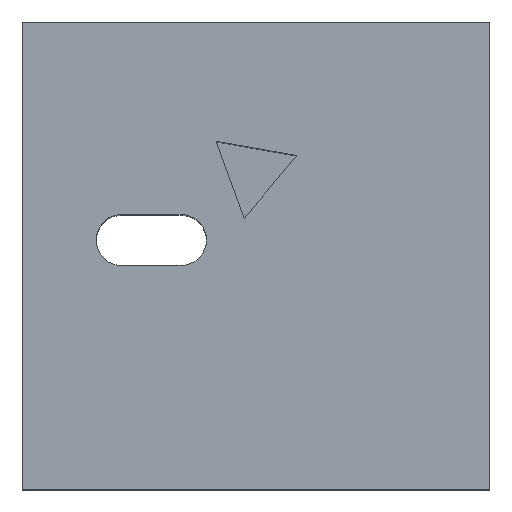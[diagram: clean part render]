
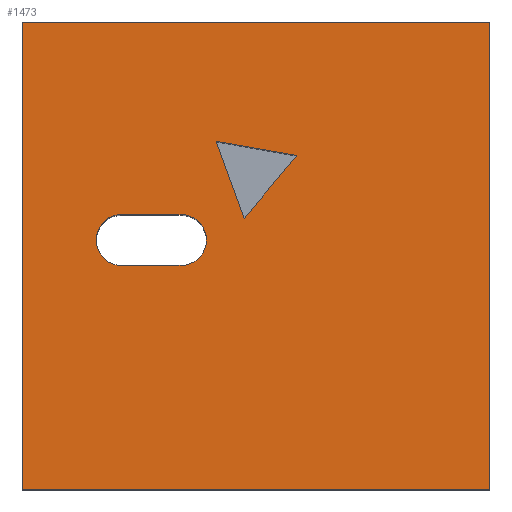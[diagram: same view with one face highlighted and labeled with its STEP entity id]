
A CAD part, top view. The second image highlights one B-rep face of the part: STEP entity #1473.
In plain terms, the highlighted planar face has unit normal (0, 0, 1).
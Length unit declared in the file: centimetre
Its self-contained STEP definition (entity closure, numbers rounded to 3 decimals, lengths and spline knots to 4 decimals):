
#16 = DIRECTION ( 'NONE',  ( -0.985, 0.173, 0. ) ) ;
#46 = VECTOR ( 'NONE', #833, 100. ) ;
#50 = AXIS2_PLACEMENT_3D ( 'NONE', #370, #1032, #805 ) ;
#60 = DIRECTION ( 'NONE',  ( 1., 0., 0. ) ) ;
#86 = CARTESIAN_POINT ( 'NONE',  ( 0., 1000., 1000. ) ) ;
#99 = CARTESIAN_POINT ( 'NONE',  ( 0., 0., 1000. ) ) ;
#104 = VECTOR ( 'NONE', #785, 100. ) ;
#124 = DIRECTION ( 'NONE',  ( 1., 0., 0. ) ) ;
#154 = DIRECTION ( 'NONE',  ( 0., 1., 0. ) ) ;
#172 = VECTOR ( 'NONE', #124, 100. ) ;
#174 = LINE ( 'NONE', #425, #853 ) ;
#213 = ORIENTED_EDGE ( 'NONE', *, *, #684, .T. ) ;
#222 = PLANE ( 'NONE',  #609 ) ;
#226 = CARTESIAN_POINT ( 'NONE',  ( 0., 1000., 1000. ) ) ;
#291 = EDGE_CURVE ( 'NONE', #687, #1373, #715, .T. ) ;
#309 = CARTESIAN_POINT ( 'NONE',  ( 0., 0., 1000. ) ) ;
#327 = EDGE_CURVE ( 'NONE', #333, #590, #1387, .T. ) ;
#333 = VERTEX_POINT ( 'NONE', #588 ) ;
#344 = LINE ( 'NONE', #226, #46 ) ;
#370 = CARTESIAN_POINT ( 'NONE',  ( 212.2095, 533.4804, 1000. ) ) ;
#376 = EDGE_CURVE ( 'NONE', #771, #1493, #947, .T. ) ;
#388 = CARTESIAN_POINT ( 'NONE',  ( 212.2095, 479.0422, 1000. ) ) ;
#400 = VECTOR ( 'NONE', #16, 100. ) ;
#407 = LINE ( 'NONE', #1433, #1119 ) ;
#412 = VERTEX_POINT ( 'NONE', #480 ) ;
#425 = CARTESIAN_POINT ( 'NONE',  ( 1000., 1000., 1000. ) ) ;
#426 = DIRECTION ( 'NONE',  ( 0., 0., -1. ) ) ;
#480 = CARTESIAN_POINT ( 'NONE',  ( 212.2095, 587.9185, 1000. ) ) ;
#484 = EDGE_CURVE ( 'NONE', #590, #1316, #505, .T. ) ;
#488 = ORIENTED_EDGE ( 'NONE', *, *, #1386, .T. ) ;
#505 = LINE ( 'NONE', #1195, #400 ) ;
#516 = CIRCLE ( 'NONE', #1486, 54.4382 ) ;
#532 = ORIENTED_EDGE ( 'NONE', *, *, #616, .F. ) ;
#545 = FACE_BOUND ( 'NONE', #1224, .T. ) ;
#556 = CARTESIAN_POINT ( 'NONE',  ( 212.2095, 533.4804, 1000. ) ) ;
#562 = VERTEX_POINT ( 'NONE', #986 ) ;
#573 = CIRCLE ( 'NONE', #760, 54.4382 ) ;
#578 = DIRECTION ( 'NONE',  ( 0., 0., -1. ) ) ;
#588 = CARTESIAN_POINT ( 'NONE',  ( 474.7998, 579.8648, 1000. ) ) ;
#590 = VERTEX_POINT ( 'NONE', #645 ) ;
#609 = AXIS2_PLACEMENT_3D ( 'NONE', #1477, #885, #688 ) ;
#616 = EDGE_CURVE ( 'NONE', #1316, #333, #407, .T. ) ;
#640 = CARTESIAN_POINT ( 'NONE',  ( 1000., 1000., 1000. ) ) ;
#644 = EDGE_LOOP ( 'NONE', ( #1138, #1029, #488, #213 ) ) ;
#645 = CARTESIAN_POINT ( 'NONE',  ( 587.4797, 714.3415, 1000. ) ) ;
#649 = LINE ( 'NONE', #1463, #1217 ) ;
#684 = EDGE_CURVE ( 'NONE', #1370, #789, #1424, .T. ) ;
#687 = VERTEX_POINT ( 'NONE', #388 ) ;
#688 = DIRECTION ( 'NONE',  ( 1., 0., 0. ) ) ;
#715 = CIRCLE ( 'NONE', #50, 54.4382 ) ;
#750 = ORIENTED_EDGE ( 'NONE', *, *, #988, .T. ) ;
#760 = AXIS2_PLACEMENT_3D ( 'NONE', #556, #426, #60 ) ;
#771 = VERTEX_POINT ( 'NONE', #309 ) ;
#776 = DIRECTION ( 'NONE',  ( -1., 0., 0. ) ) ;
#785 = DIRECTION ( 'NONE',  ( 1., 0., 0. ) ) ;
#789 = VERTEX_POINT ( 'NONE', #86 ) ;
#796 = EDGE_CURVE ( 'NONE', #931, #687, #649, .T. ) ;
#804 = EDGE_CURVE ( 'NONE', #1373, #412, #573, .T. ) ;
#805 = DIRECTION ( 'NONE',  ( 1., 0., 0. ) ) ;
#807 = ORIENTED_EDGE ( 'NONE', *, *, #804, .T. ) ;
#833 = DIRECTION ( 'NONE',  ( 0., -1., 0. ) ) ;
#842 = EDGE_CURVE ( 'NONE', #412, #562, #1137, .T. ) ;
#853 = VECTOR ( 'NONE', #154, 100. ) ;
#871 = DIRECTION ( 'NONE',  ( -1., 0., 0. ) ) ;
#885 = DIRECTION ( 'NONE',  ( 0., 0., 1. ) ) ;
#895 = CARTESIAN_POINT ( 'NONE',  ( 339.5263, 587.9185, 1000. ) ) ;
#896 = EDGE_LOOP ( 'NONE', ( #1276, #807, #1355, #750, #1437 ) ) ;
#922 = CARTESIAN_POINT ( 'NONE',  ( 339.5263, 479.0422, 1000. ) ) ;
#931 = VERTEX_POINT ( 'NONE', #922 ) ;
#943 = EDGE_CURVE ( 'NONE', #789, #771, #344, .T. ) ;
#945 = CARTESIAN_POINT ( 'NONE',  ( 339.5263, 533.4804, 1000. ) ) ;
#947 = LINE ( 'NONE', #99, #172 ) ;
#958 = DIRECTION ( 'NONE',  ( 0.343, -0.939, 0. ) ) ;
#981 = VECTOR ( 'NONE', #871, 100. ) ;
#986 = CARTESIAN_POINT ( 'NONE',  ( 339.5263, 587.9185, 1000. ) ) ;
#988 = EDGE_CURVE ( 'NONE', #562, #931, #516, .T. ) ;
#1029 = ORIENTED_EDGE ( 'NONE', *, *, #376, .T. ) ;
#1032 = DIRECTION ( 'NONE',  ( 0., 0., -1. ) ) ;
#1048 = ORIENTED_EDGE ( 'NONE', *, *, #484, .F. ) ;
#1099 = VECTOR ( 'NONE', #1282, 100. ) ;
#1119 = VECTOR ( 'NONE', #958, 100. ) ;
#1133 = ORIENTED_EDGE ( 'NONE', *, *, #327, .F. ) ;
#1137 = LINE ( 'NONE', #895, #104 ) ;
#1138 = ORIENTED_EDGE ( 'NONE', *, *, #943, .T. ) ;
#1176 = CARTESIAN_POINT ( 'NONE',  ( 474.7998, 579.8648, 1000. ) ) ;
#1195 = CARTESIAN_POINT ( 'NONE',  ( 587.4797, 714.3415, 1000. ) ) ;
#1210 = CARTESIAN_POINT ( 'NONE',  ( 0., 1000., 1000. ) ) ;
#1217 = VECTOR ( 'NONE', #776, 100. ) ;
#1218 = CARTESIAN_POINT ( 'NONE',  ( 157.7713, 533.4804, 1000. ) ) ;
#1224 = EDGE_LOOP ( 'NONE', ( #532, #1048, #1133 ) ) ;
#1276 = ORIENTED_EDGE ( 'NONE', *, *, #291, .T. ) ;
#1281 = DIRECTION ( 'NONE',  ( 1., 0., 0. ) ) ;
#1282 = DIRECTION ( 'NONE',  ( 0.642, 0.766, 0. ) ) ;
#1298 = CARTESIAN_POINT ( 'NONE',  ( 414.6795, 744.6869, 1000. ) ) ;
#1316 = VERTEX_POINT ( 'NONE', #1298 ) ;
#1355 = ORIENTED_EDGE ( 'NONE', *, *, #842, .T. ) ;
#1370 = VERTEX_POINT ( 'NONE', #640 ) ;
#1373 = VERTEX_POINT ( 'NONE', #1218 ) ;
#1374 = CARTESIAN_POINT ( 'NONE',  ( 1000., 0., 1000. ) ) ;
#1381 = FACE_OUTER_BOUND ( 'NONE', #644, .T. ) ;
#1386 = EDGE_CURVE ( 'NONE', #1493, #1370, #174, .T. ) ;
#1387 = LINE ( 'NONE', #1176, #1099 ) ;
#1424 = LINE ( 'NONE', #1210, #981 ) ;
#1433 = CARTESIAN_POINT ( 'NONE',  ( 414.6795, 744.6869, 1000. ) ) ;
#1437 = ORIENTED_EDGE ( 'NONE', *, *, #796, .T. ) ;
#1463 = CARTESIAN_POINT ( 'NONE',  ( 212.2095, 479.0422, 1000. ) ) ;
#1473 = ADVANCED_FACE ( 'NONE', ( #1485, #545, #1381 ), #222, .T. ) ;
#1477 = CARTESIAN_POINT ( 'NONE',  ( 0., 0., 1000. ) ) ;
#1485 = FACE_BOUND ( 'NONE', #896, .T. ) ;
#1486 = AXIS2_PLACEMENT_3D ( 'NONE', #945, #578, #1281 ) ;
#1493 = VERTEX_POINT ( 'NONE', #1374 ) ;
